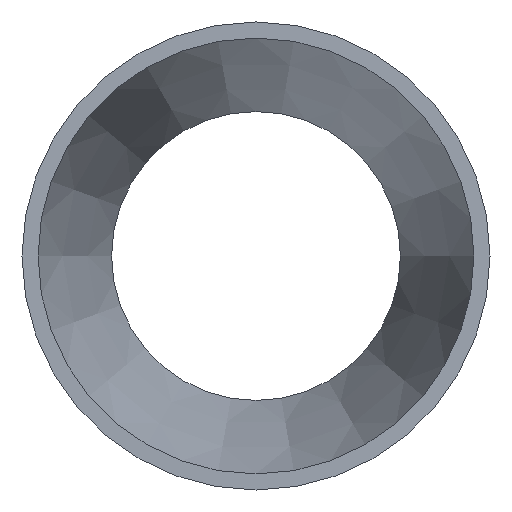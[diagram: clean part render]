
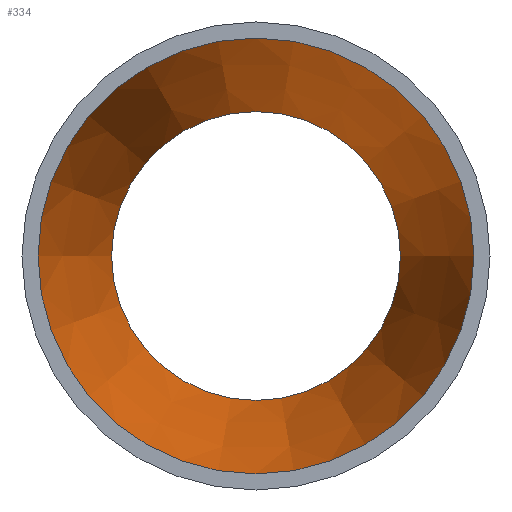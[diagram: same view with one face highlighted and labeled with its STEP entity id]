
A CAD part, left-side view. The second image highlights one B-rep face of the part: STEP entity #334.
In plain terms, the highlighted conical face has half-angle 12.504 degrees and reference radius 34.417 mm.
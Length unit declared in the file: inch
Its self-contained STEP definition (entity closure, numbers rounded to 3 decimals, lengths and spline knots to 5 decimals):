
#66=FACE_OUTER_BOUND('',#82,.T.);
#82=EDGE_LOOP('',(#235,#236,#237,#238,#239,#240));
#104=LINE('',#580,#114);
#114=VECTOR('',#447,1.355);
#127=CIRCLE('',#375,1.08);
#128=CIRCLE('',#376,1.63);
#129=CIRCLE('',#377,1.63);
#130=CIRCLE('',#378,1.08);
#159=VERTEX_POINT('',#576);
#160=VERTEX_POINT('',#577);
#161=VERTEX_POINT('',#579);
#162=VERTEX_POINT('',#581);
#192=EDGE_CURVE('',#159,#160,#127,.T.);
#193=EDGE_CURVE('',#160,#161,#104,.T.);
#194=EDGE_CURVE('',#162,#161,#128,.T.);
#195=EDGE_CURVE('',#161,#162,#129,.T.);
#196=EDGE_CURVE('',#160,#159,#130,.T.);
#235=ORIENTED_EDGE('',*,*,#192,.T.);
#236=ORIENTED_EDGE('',*,*,#193,.T.);
#237=ORIENTED_EDGE('',*,*,#194,.F.);
#238=ORIENTED_EDGE('',*,*,#195,.F.);
#239=ORIENTED_EDGE('',*,*,#193,.F.);
#240=ORIENTED_EDGE('',*,*,#196,.T.);
#314=CONICAL_SURFACE('',#374,1.355,0.218);
#334=ADVANCED_FACE('',(#66),#314,.F.);
#374=AXIS2_PLACEMENT_3D('',#575,#443,#444);
#375=AXIS2_PLACEMENT_3D('',#578,#445,#446);
#376=AXIS2_PLACEMENT_3D('',#582,#448,#449);
#377=AXIS2_PLACEMENT_3D('',#583,#450,#451);
#378=AXIS2_PLACEMENT_3D('',#584,#452,#453);
#443=DIRECTION('center_axis',(-1.,0.,0.));
#444=DIRECTION('ref_axis',(0.,1.,0.));
#445=DIRECTION('center_axis',(1.,0.,0.));
#446=DIRECTION('ref_axis',(0.,1.,0.));
#447=DIRECTION('',(-0.976,-0.217,0.));
#448=DIRECTION('center_axis',(1.,0.,0.));
#449=DIRECTION('ref_axis',(0.,1.,0.));
#450=DIRECTION('center_axis',(1.,0.,0.));
#451=DIRECTION('ref_axis',(0.,1.,0.));
#452=DIRECTION('center_axis',(1.,0.,0.));
#453=DIRECTION('ref_axis',(0.,1.,0.));
#575=CARTESIAN_POINT('Origin',(2.5,0.,0.));
#576=CARTESIAN_POINT('',(3.74,1.08,0.));
#577=CARTESIAN_POINT('',(3.74,-1.08,0.));
#578=CARTESIAN_POINT('Origin',(3.74,0.,0.));
#579=CARTESIAN_POINT('',(1.26,-1.63,0.));
#580=CARTESIAN_POINT('',(2.5,-1.355,0.));
#581=CARTESIAN_POINT('',(1.26,1.63,0.));
#582=CARTESIAN_POINT('Origin',(1.26,0.,0.));
#583=CARTESIAN_POINT('Origin',(1.26,0.,0.));
#584=CARTESIAN_POINT('Origin',(3.74,0.,0.));
